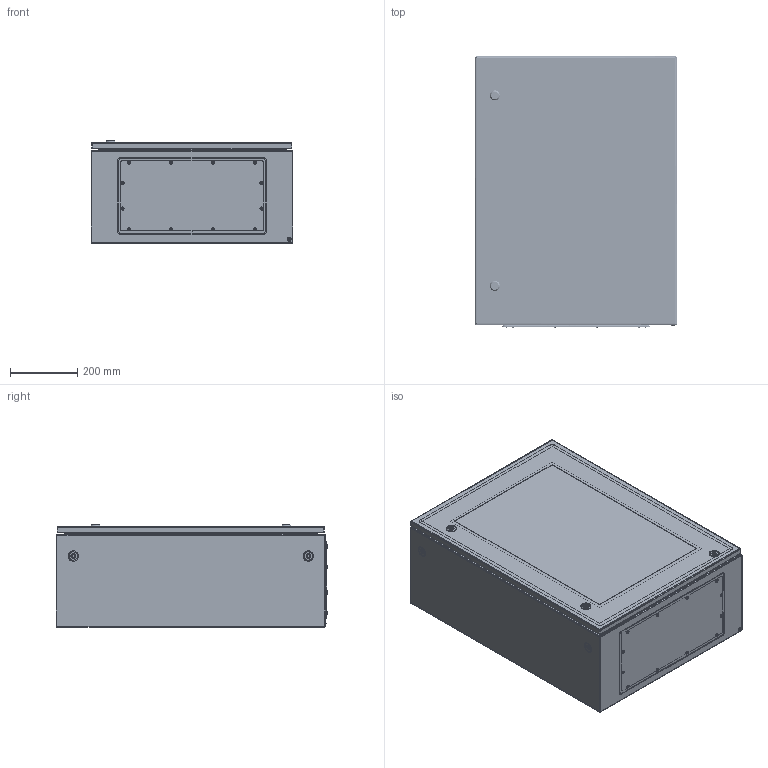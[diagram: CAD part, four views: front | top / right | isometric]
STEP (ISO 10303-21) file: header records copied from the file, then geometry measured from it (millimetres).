
FILE_DESCRIPTION (( 'STEP AP214' ), '1' );
FILE_NAME ('CCV 80.60.30.STEP', '2025-09-19T05:54:56', ( '' ), ( '' ), 'SwSTEP 2.0', 'SolidWorks 2019', '' );
FILE_SCHEMA (( 'AUTOMOTIVE_DESIGN' ));
Length unit declared in the file: millimetre
Products named in the file (30): Ïåòëÿ ïðèâàðíàÿ ÷àñòü; Ïåòëÿ KIT_Ìîäóëü_êîðïóñíàÿ ÷àñòü; CCS X.Y.30(40).01.001 Êîðïóñ_ïàíåëü ñðåäíÿÿ_CCS 80.60.30; Ãàéêà Ì8 DIN 934; Çàìîê LC 5DB.S_‡ ¬®ª LC 5DB.S_45mm; ßçû÷îê çàìêà LC 5DB.S; CCS Y.Z.01.002 Êîðïóñ_ïàíåëü âåðõíÿÿ_CCS 60.30; pan head cross recess screw_din_DIN EN ISO 7045 - M5 x 6 - Z - 6N; Essentra_d9.3_055009300003; CCV X.Y.02.001 拟屦黖CCV 80.60; CCS X.Y.30(40).01.000ÑÁ Êîðïóñ øêàôà ñâàðíîé_CCS 80.60.30; KIT_Çàæèìíîå êîëüöî_ïîëèîêñèìåòèëåí_ô5_EMKA 1031-U16; Ïåòëÿ KIT_Ìîäóëü_êîðïóñíàÿ ÷àñòü â ñáîðå; Øïèëüêà çàçåìëåíèÿ Ì6õ17,5_˜¯¨«ìª  § §¥¬«¥­¨ï Œ6å17,5 á ª®«¯ çª®¬; CCV 80.60.30; Âèíò ðåçüáîâûäàâëèâàþùèé ñ ïîëóïîòàéíîé ãîëîâêîé Ì5õ12; CCV X.Y.02.002 栺樏鋋_CCV 80.60; KIT_Øòèôò_ô5_Ìîäóëü; PKV Y.22 相礤朦 赅徨朦眍泐 忖钿郷PKV 60.22; Øïèëüêà çàçåìëåíèÿ Ì6õ17,5_˜¯¨«ìª  § §¥¬«¥­¨ï Œ6å17,5; CCV X.Y.02.000蚜 拟屦黖CCV 80.60; plain washer grade a_din_Washer DIN 125 - A 5.3; ﾇ瑟鶴 LC 5DB.S; hex flange nut_din_Hexagon Flange Nut DIN 6923 - M8 - N; Øïèëüêà Ì8õ25; MPC X.Y Ïàíåëü ìîíòàæíàÿ_MPC 80.60; Essentra_d6,3_1287228; CCS Y.Z.01.003 Êîðïóñ_ïàíåëü íèæíÿÿ_CCS 60.30
Assembly tree (67 placements, depth 3):
  CCV 80.60.30
    CCS X.Y.30(40).01.000ÑÁ Êîðïóñ øêàôà ñâàðíîé_CCS 80.60.30
      CCS X.Y.30(40).01.001 Êîðïóñ_ïàíåëü ñðåäíÿÿ_CCS 80.60.30
      CCS Y.Z.01.003 Êîðïóñ_ïàíåëü íèæíÿÿ_CCS 60.30
      CCS Y.Z.01.002 Êîðïóñ_ïàíåëü âåðõíÿÿ_CCS 60.30
      Øïèëüêà çàçåìëåíèÿ Ì6õ17,5_˜¯¨«ìª  § §¥¬«¥­¨ï Œ6å17,5  x4
      Øïèëüêà Ì8õ25  x6
    Ïåòëÿ KIT_Ìîäóëü_êîðïóñíàÿ ÷àñòü â ñáîðå
      Ïåòëÿ KIT_Ìîäóëü_êîðïóñíàÿ ÷àñòü
      KIT_Øòèôò_ô5_Ìîäóëü
      KIT_Çàæèìíîå êîëüöî_ïîëèîêñèìåòèëåí_ô5_EMKA 1031-U16
    Ïåòëÿ KIT_Ìîäóëü_êîðïóñíàÿ ÷àñòü â ñáîðå
      Ïåòëÿ KIT_Ìîäóëü_êîðïóñíàÿ ÷àñòü
      KIT_Øòèôò_ô5_Ìîäóëü
      KIT_Çàæèìíîå êîëüöî_ïîëèîêñèìåòèëåí_ô5_EMKA 1031-U16
    CCV X.Y.02.000蚜 拟屦黖CCV 80.60
      CCV X.Y.02.001 拟屦黖CCV 80.60
      Øïèëüêà çàçåìëåíèÿ Ì6õ17,5_˜¯¨«ìª  § §¥¬«¥­¨ï Œ6å17,5 á ª®«¯ çª®¬
      CCV X.Y.02.002 栺樏鋋_CCV 80.60
      Ïåòëÿ ïðèâàðíàÿ ÷àñòü  x2
    MPC X.Y Ïàíåëü ìîíòàæíàÿ_MPC 80.60
    pan head cross recess screw_din_DIN EN ISO 7045 - M5 x 6 - Z - 6N  x2
    plain washer grade a_din_Washer DIN 125 - A 5.3  x2
    Ãàéêà Ì8 DIN 934  x6
    hex flange nut_din_Hexagon Flange Nut DIN 6923 - M8 - N  x6
    Essentra_d9.3_055009300003
    Essentra_d6,3_1287228  x2
    Çàìîê LC 5DB.S_‡ ¬®ª LC 5DB.S_45mm
      ﾇ瑟鶴 LC 5DB.S
      ßçû÷îê çàìêà LC 5DB.S
    Çàìîê LC 5DB.S_‡ ¬®ª LC 5DB.S_45mm
      ﾇ瑟鶴 LC 5DB.S
      ßçû÷îê çàìêà LC 5DB.S
    PKV Y.22 相礤朦 赅徨朦眍泐 忖钿郷PKV 60.22
    Âèíò ðåçüáîâûäàâëèâàþùèé ñ ïîëóïîòàéíîé ãîëîâêîé Ì5õ12  x12
Bounding box: 600 x 807.22 x 304.5 mm (x, y, z)
Volume: 4476178.3 mm3; surface area: 4930653.7 mm2
Topology: 66 solids, 66 shells, 2719 faces, 6747 edges, 4192 vertices
Faces by surface type: plane 1018, cylinder 996, cone 362, bspline 166, torus 136, sphere 41
Entity records: 53814 total; most frequent: CARTESIAN_POINT 22514, ORIENTED_EDGE 6192, DIRECTION 6128, EDGE_CURVE 3096, AXIS2_PLACEMENT_3D 2288, VERTEX_POINT 1937, VECTOR 1552, LINE 1552
